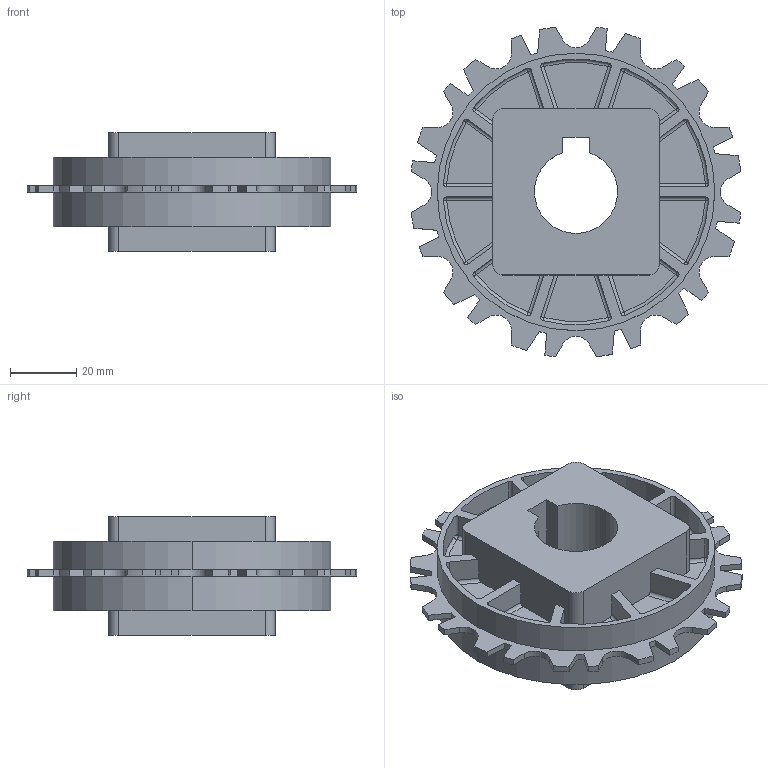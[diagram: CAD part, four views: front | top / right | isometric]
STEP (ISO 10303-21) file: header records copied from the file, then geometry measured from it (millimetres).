
FILE_DESCRIPTION (( 'STEP AP203' ), '1' );
FILE_NAME ('380ABD212 25 göbek.STEP', '2024-06-04T13:06:51', ( '' ), ( '' ), 'SwSTEP 2.0', 'SolidWorks 2021', '' );
FILE_SCHEMA (( 'CONFIG_CONTROL_DESIGN' ));
Length unit declared in the file: millimetre
Products named in the file (1): 380ABD212 25 göbek
Bounding box: 99.23 x 99.23 x 35.75 mm (x, y, z)
Volume: 101239 mm3; surface area: 34134.9 mm2
Topology: 1 solids, 1 shells, 348 faces, 1006 edges, 624 vertices
Faces by surface type: cylinder 163, plane 125, sphere 40, torus 20
Entity records: 11089 total; most frequent: CARTESIAN_POINT 2267, DIRECTION 1926, ORIENTED_EDGE 1812, EDGE_CURVE 906, AXIS2_PLACEMENT_3D 703, VERTEX_POINT 564, LINE 520, VECTOR 520
